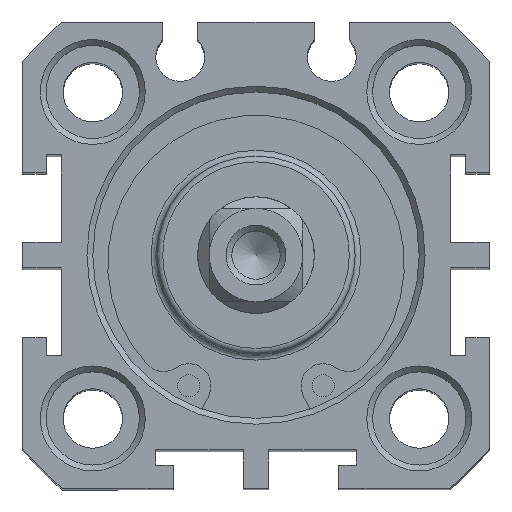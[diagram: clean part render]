
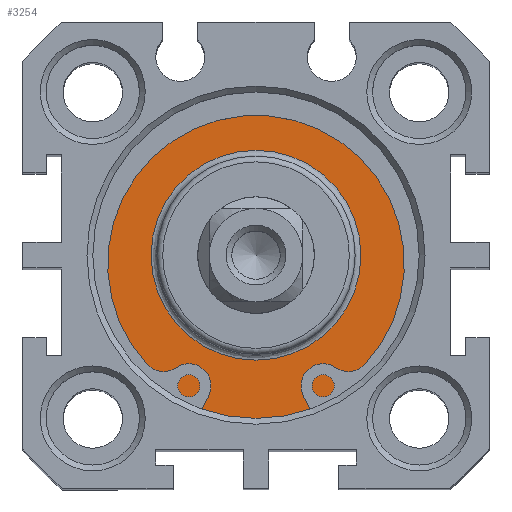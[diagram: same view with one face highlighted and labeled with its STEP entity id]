
A CAD part, top view. The second image highlights one B-rep face of the part: STEP entity #3254.
In plain terms, the highlighted planar face has unit normal (0, 0, 1).
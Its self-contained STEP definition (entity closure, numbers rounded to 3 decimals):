
#3203=CARTESIAN_POINT('',(-2.524,11.284,78.3));
#3204=VERTEX_POINT('',#3203);
#3205=CARTESIAN_POINT('',(-2.524,2.284,78.3));
#3206=DIRECTION('',(0.0,0.0,1.0));
#3207=DIRECTION('',(0.0,-1.0,0.0));
#3208=AXIS2_PLACEMENT_3D('',#3205,#3206,#3207);
#3209=CIRCLE('',#3208,9.);
#3210=EDGE_CURVE('',#3204,#3204,#3209,.T.);
#3235=CARTESIAN_POINT('',(-2.524,13.534,78.3));
#3236=DIRECTION('',(0.0,0.0,1.0));
#3237=DIRECTION('',(1.0,0.0,0.0));
#3238=AXIS2_PLACEMENT_3D('',#3235,#3236,#3237);
#3239=PLANE('',#3238);
#3240=CARTESIAN_POINT('',(-2.524,16.284,78.3));
#3241=VERTEX_POINT('',#3240);
#3242=CARTESIAN_POINT('',(-2.524,2.284,78.3));
#3243=DIRECTION('',(0.0,0.0,-1.0));
#3244=DIRECTION('',(0.0,1.0,0.0));
#3245=AXIS2_PLACEMENT_3D('',#3242,#3243,#3244);
#3246=CIRCLE('',#3245,14.0);
#3247=EDGE_CURVE('',#3241,#3241,#3246,.T.);
#3248=ORIENTED_EDGE('',*,*,#3247,.F.);
#3249=EDGE_LOOP('',(#3248));
#3250=FACE_OUTER_BOUND('',#3249,.T.);
#3251=ORIENTED_EDGE('',*,*,#3210,.F.);
#3252=EDGE_LOOP('',(#3251));
#3253=FACE_BOUND('',#3252,.T.);
#3254=ADVANCED_FACE('',(#3250,#3253),#3239,.T.);
